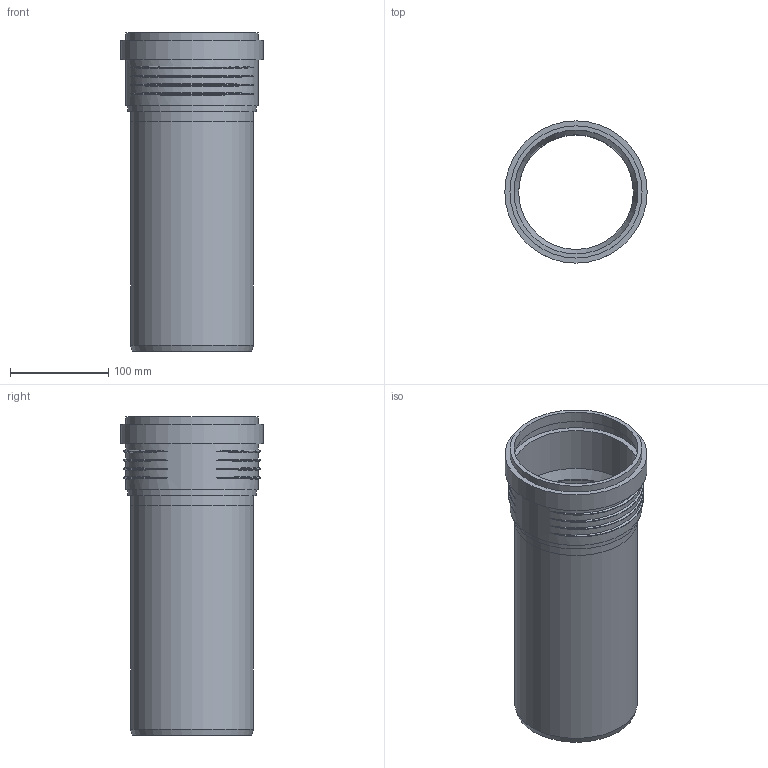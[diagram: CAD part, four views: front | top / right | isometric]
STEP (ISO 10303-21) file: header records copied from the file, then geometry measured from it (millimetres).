
FILE_DESCRIPTION(/* description */ (''),/* implementation_level */ '2;1');
FILE_NAME(/* name */ 'Z:\Geberit\Export\NewStep\390601.stp',/* time_stamp */ '2014-04-02T08:15:23+02:00',/* author */ ('ML'),/* organization */ (''),/* preprocessor_version */ 'ST-DEVELOPER v15.2',/* originating_system */ 'Autodesk Inventor 2014',/* authorisation */ '');
FILE_SCHEMA (('AUTOMOTIVE_DESIGN { 1 0 10303 214 3 1 1 }'));
Length unit declared in the file: millimetre
Products named in the file (3): 861667; 861586ohne; 390601
Bounding box: 144.95 x 144.95 x 323.9 mm (x, y, z)
Volume: 567363.9 mm3; surface area: 278803.9 mm2
Topology: 2 solids, 2 shells, 47 faces, 104 edges, 71 vertices
Faces by surface type: torus 24, cylinder 11, plane 10, cone 2
Full cylindrical faces by diameter (mm): 116.8 x2, 125.2 x2, 126.2 x2, 130.4 x1, 134.6 x2, 136.55 x1, 144.95 x1
Entity records: 2003 total; most frequent: CARTESIAN_POINT 962, DIRECTION 182, ORIENTED_EDGE 174, AXIS2_PLACEMENT_3D 91, EDGE_CURVE 87, EDGE_LOOP 78, VERTEX_POINT 71, STYLED_ITEM 49
